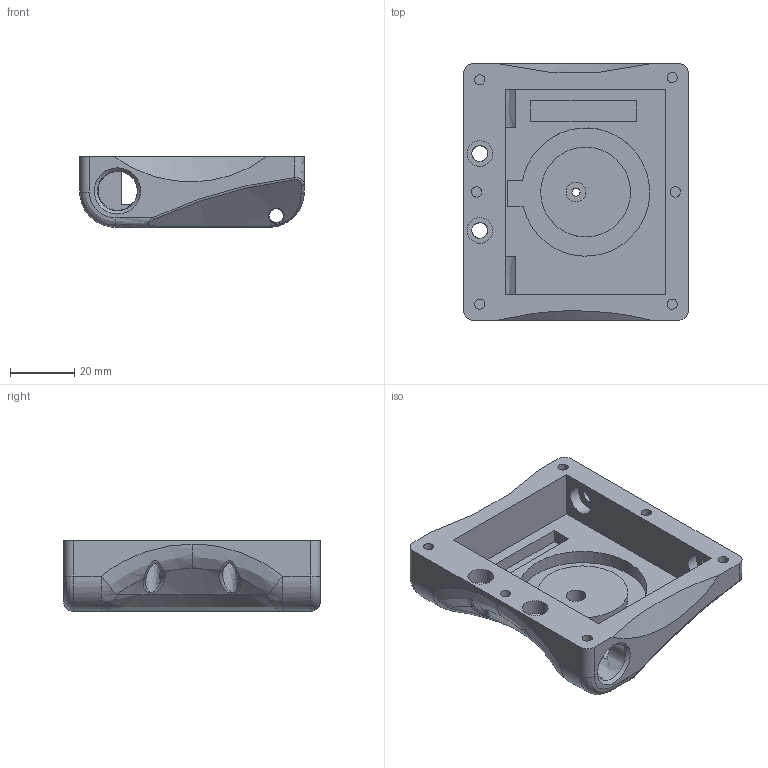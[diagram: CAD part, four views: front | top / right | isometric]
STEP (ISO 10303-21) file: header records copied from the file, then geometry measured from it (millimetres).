
FILE_DESCRIPTION ((), '1');
FILE_NAME ('\\vmware-host\Shared Folders\Temp\Íîâàÿ ïàïêà (2)\dive_computer_body_v_0_1.STEP', '2024-08-26T23:24:25', ('Unknown'), ('nPowerSoftware.com'), 'HarmonyWare STEP v1.9.7-dev', 'nPower Software, LLC', '');
FILE_SCHEMA (('CONFIG_CONTROL_DESIGN'));
Length unit declared in the file: millimetre
Products named in the file (1): product-name
Bounding box: 70 x 80 x 22 mm (x, y, z)
Volume: 49853.6 mm3; surface area: 22888.5 mm2
Topology: 1 solids, 1 shells, 109 faces, 255 edges, 155 vertices
Faces by surface type: bspline 109
Entity records: 8962 total; most frequent: CARTESIAN_POINT 7428, ORIENTED_EDGE 500, EDGE_CURVE 250, VERTEX_POINT 155, EDGE_LOOP 139, B_SPLINE_CURVE_WITH_KNOTS 111, FACE_OUTER_BOUND 109, ADVANCED_FACE 109
